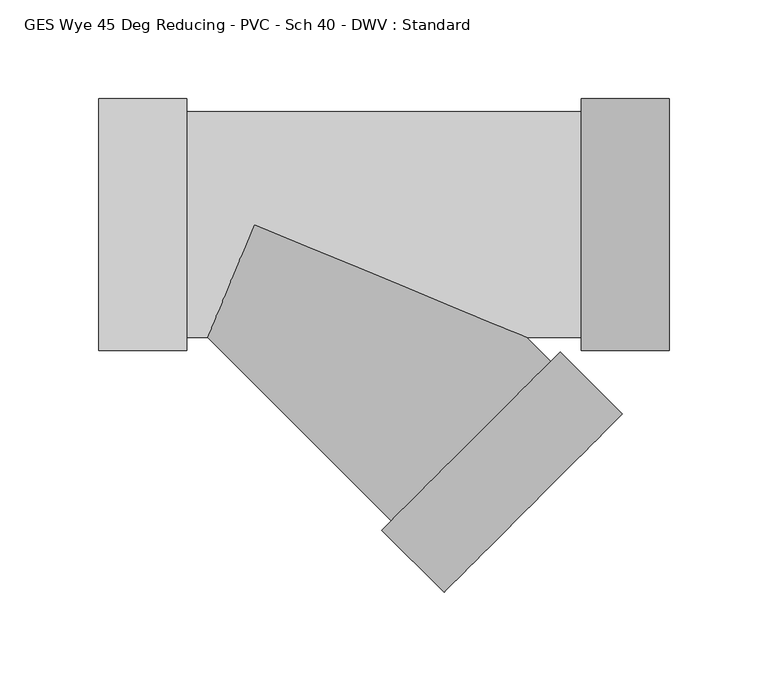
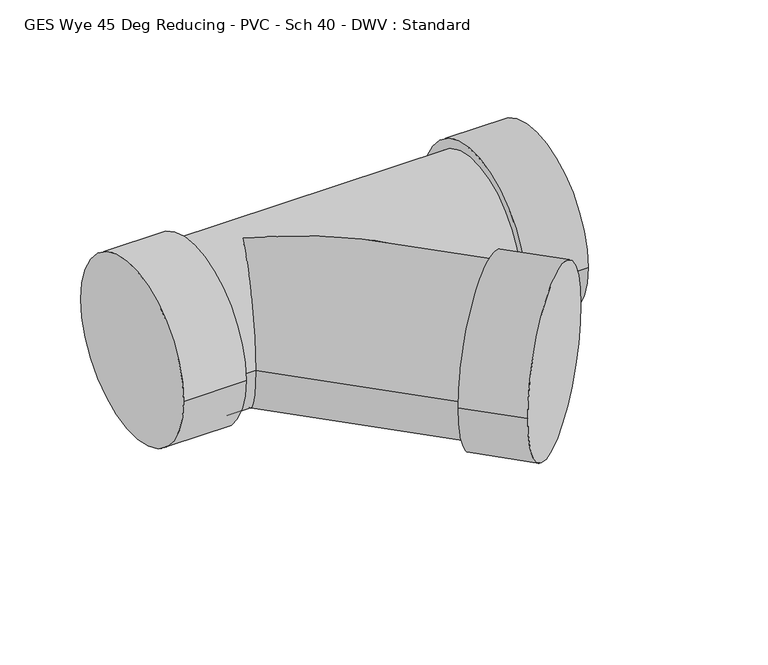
"""IFC4 building model written with IfcOpenShell, lengths in millimetres: pipe fitting geometry, GES Wye 45 Deg Reducing - PVC - Sch 40 - DWV : Standard."""

from ifc_helpers import new_model, si_unit, frame, origin, place, context, project, spatial, circle_curve, ellipse_curve, source, transform, mapped, element, save
from ifc_brep_helpers import plane_surface, cylinder_surface, advanced_brep


def ges_wye_45_deg_reducing_pvc_sch_40_dwv_standard_d5e102ba(model_context):
    return source(origin(), model_context, "Body", "AdvancedBrep", [
        advanced_brep(
        [(-34.2622187, 63.754, 0.0), (-34.2622187, -63.754, 0.0), (-34.2622187, 57.15, 0.0), (-34.2622187, -57.15, 0.0), (-78.7122187, 63.754, 0.0), (-78.7122187, -63.754, 0.0), (165.6159375, -63.754, 0.0), (165.6159375, 63.754, 0.0), (165.6159375, -57.15, 0.0), (165.6159375, 57.15, 0.0), (210.0659375, -63.754, 0.0), (210.0659375, 63.754, 0.0), (137.9832134, -57.15, 0.0), (0.0, 0.0, -57.15), (-23.6704337, -57.15, 0.0), (0.0, 0.0, 57.15), (69.3107123, -150.1207511, 0.0), (150.1284992, -69.293928, 0.0), (64.6412402, -154.7907453, 0.0), (154.7979714, -64.6239338, 0.0), (96.0738936, -186.2198846, 0.0), (186.2306248, -96.0530731, 0.0)],
        [
            (0, 1, circle_curve(frame((-34.2622187, 0.0, 0.0), z_axis=(1.0, 0.0, 0.0), x_axis=(0.0, -1.0, 0.0)), 63.754)),
            (1, 0, circle_curve(frame((-34.2622187, 0.0, 0.0), z_axis=(1.0, 0.0, 0.0), x_axis=(0.0, -1.0, 0.0)), 63.754)),
            (2, 3, circle_curve(frame((-34.2622187, 0.0, 0.0), z_axis=(-1.0, 0.0, 0.0), x_axis=(0.0, 0.0, -1.0)), 57.15)),
            (3, 2, circle_curve(frame((-34.2622187, 0.0, 0.0), z_axis=(-1.0, 0.0, 0.0), x_axis=(0.0, 0.0, 1.0)), 57.15)),
            (4, 5, circle_curve(frame((-78.7122187, 0.0, 0.0), z_axis=(-1.0, 0.0, 0.0), x_axis=(0.0, -1.0, 0.0)), 63.754)),
            (5, 4, circle_curve(frame((-78.7122187, 0.0, 0.0), z_axis=(-1.0, 0.0, 0.0), x_axis=(0.0, -1.0, 0.0)), 63.754)),
            (0, 4),
            (5, 1),
            (6, 7, circle_curve(frame((165.6159375, 0.0, 0.0), z_axis=(-1.0, 0.0, 0.0), x_axis=(0.0, 1.0, 0.0)), 63.754)),
            (7, 6, circle_curve(frame((165.6159375, 0.0, 0.0), z_axis=(-1.0, 0.0, 0.0), x_axis=(0.0, 1.0, 0.0)), 63.754)),
            (8, 9, circle_curve(frame((165.6159375, 0.0, 0.0), z_axis=(1.0, 0.0, 0.0), x_axis=(0.0, 0.0, -1.0)), 57.15)),
            (9, 8, circle_curve(frame((165.6159375, 0.0, 0.0), z_axis=(1.0, 0.0, 0.0), x_axis=(0.0, 0.0, 1.0)), 57.15)),
            (10, 11, circle_curve(frame((210.0659375, 0.0, 0.0), z_axis=(1.0, 0.0, 0.0), x_axis=(0.0, 1.0, 0.0)), 63.754)),
            (11, 10, circle_curve(frame((210.0659375, 0.0, 0.0), z_axis=(1.0, 0.0, 0.0), x_axis=(0.0, 1.0, 0.0)), 63.754)),
            (6, 10),
            (11, 7),
            (2, 9),
            (8, 12),
            (12, 13, ellipse_curve(frame((0.0, 0.0, 0.0), z_axis=(0.38265760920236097, 0.9238902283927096, 0.0), x_axis=(0.9238902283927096, -0.382657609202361, 0.0)), 149.3502249, 57.15)),
            (13, 14, ellipse_curve(frame((0.0, 0.0, 0.0), z_axis=(-0.9238902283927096, 0.382657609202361, 0.0), x_axis=(0.38265760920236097, 0.9238902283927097, 0.0)), 61.8579981, 57.15)),
            (14, 3),
            (14, 15, ellipse_curve(frame((0.0, 0.0, 0.0), z_axis=(-0.9238902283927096, 0.382657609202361, 0.0), x_axis=(0.38265760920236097, 0.9238902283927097, 0.0)), 61.8579981, 57.15)),
            (15, 12, ellipse_curve(frame((0.0, 0.0, 0.0), z_axis=(0.38265760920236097, 0.9238902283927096, 0.0), x_axis=(0.9238902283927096, -0.382657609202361, 0.0)), 149.3502249, 57.15)),
            (14, 16),
            (16, 17, circle_curve(frame((109.7196058, -109.7073395, 0.0), z_axis=(-0.7071463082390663, 0.707067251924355, 0.0), x_axis=(0.707067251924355, 0.7071463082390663, 0.0)), 57.15)),
            (17, 12),
            (17, 16, circle_curve(frame((109.7196058, -109.7073395, 0.0), z_axis=(-0.7071463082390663, 0.707067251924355, 0.0), x_axis=(0.707067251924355, 0.7071463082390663, 0.0)), 57.15)),
            (18, 19, circle_curve(frame((109.7196058, -109.7073395, 0.0), z_axis=(-0.7071463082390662, 0.7070672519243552, 0.0), x_axis=(0.7070672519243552, 0.7071463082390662, 0.0)), 63.754)),
            (19, 18, circle_curve(frame((109.7196058, -109.7073395, 0.0), z_axis=(-0.7071463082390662, 0.7070672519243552, 0.0), x_axis=(0.7070672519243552, 0.7071463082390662, 0.0)), 63.754)),
            (20, 21, circle_curve(frame((141.1522592, -141.1364789, 0.0), z_axis=(0.7071463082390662, -0.7070672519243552, 0.0), x_axis=(0.7070672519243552, 0.7071463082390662, 0.0)), 63.754)),
            (21, 20, circle_curve(frame((141.1522592, -141.1364789, 0.0), z_axis=(0.7071463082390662, -0.7070672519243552, 0.0), x_axis=(0.7070672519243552, 0.7071463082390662, 0.0)), 63.754)),
            (18, 20),
            (21, 19),
        ],
        [
            plane_surface(frame((-34.2622187, 0.0, 0.0), z_axis=(1.0, 0.0, 0.0), x_axis=(0.0, 0.0, 1.0))),
            plane_surface(frame((-78.7122187, 0.0, 0.0), z_axis=(-1.0, 0.0, 0.0), x_axis=(0.0, 0.0, 1.0))),
            cylinder_surface(frame((-34.2622187, 0.0, 0.0), z_axis=(1.0, 0.0, 0.0), x_axis=(0.0, -1.0, 0.0)), 63.754),
            plane_surface(frame((165.6159375, 0.0, 0.0), z_axis=(-1.0, 0.0, 0.0), x_axis=(0.0, 0.0, 1.0))),
            plane_surface(frame((210.0659375, 0.0, 0.0), z_axis=(1.0, 0.0, 0.0), x_axis=(0.0, 0.0, 1.0))),
            cylinder_surface(frame((165.6159375, 0.0, 0.0), z_axis=(-1.0, 0.0, 0.0), x_axis=(0.0, 1.0, 0.0)), 63.754),
            cylinder_surface(frame((-34.2622187, 0.0, 0.0), z_axis=(1.0, 0.0, 0.0), x_axis=(0.0, 0.0, -1.0)), 57.15),
            cylinder_surface(frame((-34.2622187, 0.0, 0.0), z_axis=(1.0, 0.0, 0.0), x_axis=(0.0, 0.0, 1.0)), 57.15),
            cylinder_surface(frame((0.0, 0.0, 0.0), z_axis=(-0.7071463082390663, 0.707067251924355, 0.0), x_axis=(0.707067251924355, 0.7071463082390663, 0.0)), 57.15),
            plane_surface(frame((109.7196058, -109.7073395, 0.0), z_axis=(-0.7071463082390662, 0.7070672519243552, 0.0), x_axis=(0.0, 0.0, 1.0))),
            plane_surface(frame((141.1522592, -141.1364789, 0.0), z_axis=(0.7071463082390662, -0.7070672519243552, 0.0), x_axis=(0.0, 0.0, 1.0))),
            cylinder_surface(frame((109.7196058, -109.7073395, 0.0), z_axis=(-0.7071463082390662, 0.7070672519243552, 0.0), x_axis=(0.7070672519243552, 0.7071463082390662, 0.0)), 63.754),
        ],
        [
            (0, [[1, 2], [3, 4]]),
            (1, [[5, 6]]),
            (2, [[-1, 7, -6, 8]]),
            (2, [[-2, -8, -5, -7]]),
            (3, [[9, 10], [11, 12]]),
            (4, [[13, 14]]),
            (5, [[-9, 15, -14, 16]]),
            (5, [[-10, -16, -13, -15]]),
            (6, [[17, -11, 18, 19, 20, 21, -3]]),
            (7, [[-17, -4, -21, 22, 23, -18, -12]]),
            (8, [[24, 25, 26, -23, -22]]),
            (8, [[-24, -20, -19, -26, 27]]),
            (9, [[28, 29], [-25, -27]]),
            (10, [[30, 31]]),
            (11, [[-28, 32, -31, 33]]),
            (11, [[-29, -33, -30, -32]]),
        ],
    ),
    ])


if __name__ == "__main__":
    model = new_model("IFC4")
    model_context = context("Model", 3, world=origin())
    ifc_project = project(units=[si_unit("LENGTHUNIT", "METRE", prefix="MILLI")], contexts=[model_context])
    site = spatial("IfcSite", under=ifc_project)
    building = spatial("IfcBuilding", under=site)
    placement = place(None, origin())
    ges_wye_45_deg_reducing_pvc_sch_40_dwv_standard_shape = ges_wye_45_deg_reducing_pvc_sch_40_dwv_standard_d5e102ba(model_context)
    element("IfcPipeFitting", 1, ObjectType="GES Wye 45 Deg Reducing - PVC - Sch 40 - DWV : Standard", at=placement, inside=building, context=model_context, shape_type="MappedRepresentation", body=[
        mapped(ges_wye_45_deg_reducing_pvc_sch_40_dwv_standard_shape, transform((0.0, 0.0, 0.0), x_axis=(1.0, 0.0, 0.0), y_axis=(0.0, 1.0, 0.0), z_axis=(0.0, 0.0, 1.0))),
    ])
    save(model, "model.ifc")
